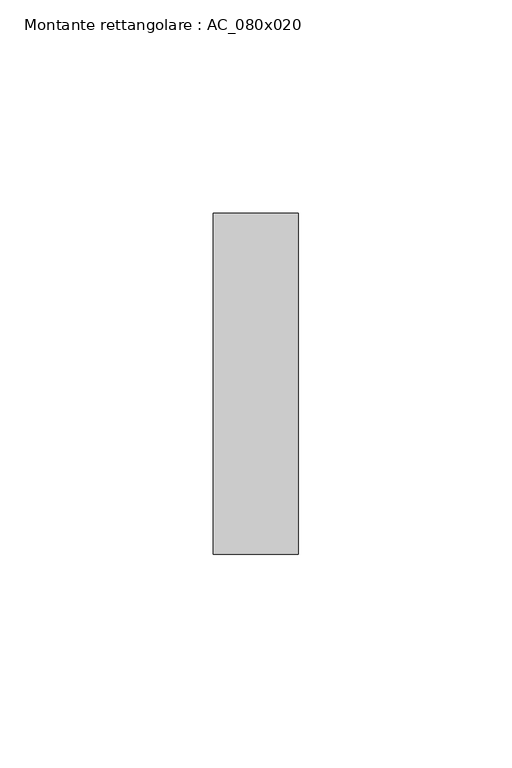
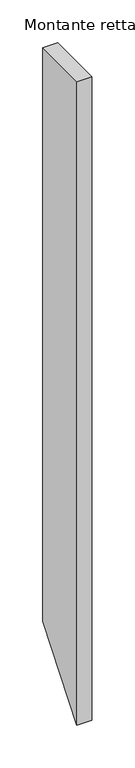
"""IFC4 building model written with IfcOpenShell, lengths in millimetres: member geometry, Montante rettangolare : AC_080x020."""

from ifc_helpers import new_model, si_unit, frame, origin, place, context, project, spatial, polyline, outline, extrude, source, transform, mapped, element, save


def montante_rettangolare_ac_080x020_3b7735f9(model_context):
    return source(origin(), model_context, "Body", "SweptSolid", [
        extrude(outline(polyline([(-40.0, 0.0), (40.0, 0.0), (40.0, -819.1568563), (-40.0, -918.9108082), (-40.0, 0.0)])), frame((-20.0, 0.0, 0.0), z_axis=(1.0, 0.0, 0.0), x_axis=(0.0, 1.0, 0.0)), (0.0, 0.0, 1.0), 20.0),
    ])


if __name__ == "__main__":
    model = new_model("IFC4")
    model_context = context("Model", 3, world=origin())
    ifc_project = project(units=[si_unit("LENGTHUNIT", "METRE", prefix="MILLI")], contexts=[model_context])
    site = spatial("IfcSite", under=ifc_project)
    building = spatial("IfcBuilding", under=site)
    placement = place(None, origin())
    montante_rettangolare_ac_080x020_shape = montante_rettangolare_ac_080x020_3b7735f9(model_context)
    element("IfcMember", 1, ObjectType="Montante rettangolare : AC_080x020", at=placement, inside=building, context=model_context, shape_type="MappedRepresentation", body=[
        mapped(montante_rettangolare_ac_080x020_shape, transform((0.0, 0.0, 0.0), x_axis=(1.0, 0.0, 0.0), y_axis=(0.0, 1.0, 0.0), z_axis=(0.0, 0.0, 1.0))),
    ])
    save(model, "model.ifc")
